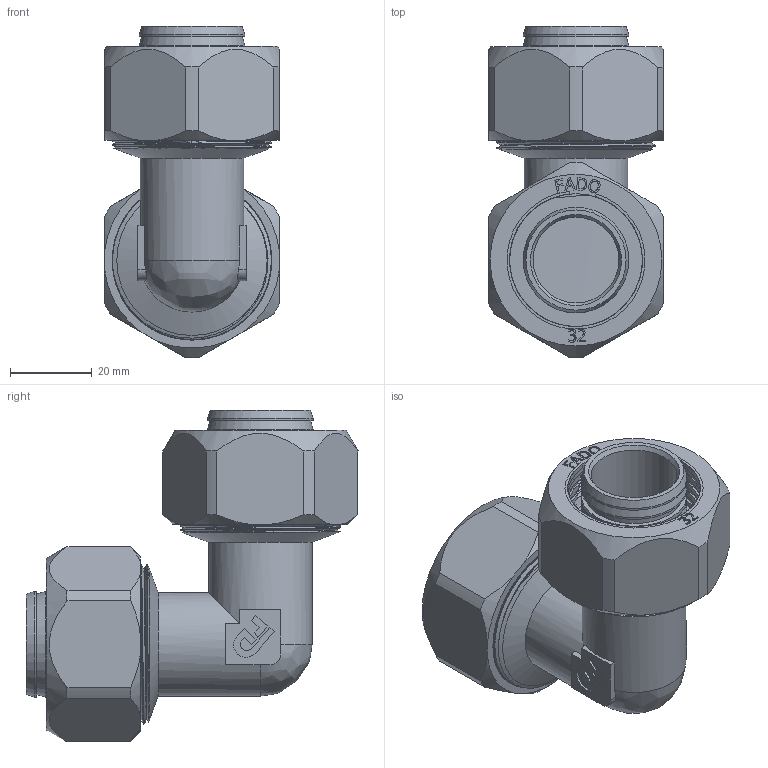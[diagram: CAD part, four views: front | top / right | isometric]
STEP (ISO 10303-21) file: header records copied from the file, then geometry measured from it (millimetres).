
FILE_DESCRIPTION(/* description */ (''),/* implementation_level */ '2;1');
FILE_NAME(/* name */ 'C:\Users\Doom\Desktop\Фадотех\Обжим\RFU04 32 30.03.2020\RFU04 32 30.03.2020.stp',/* time_stamp */ '2022-06-01T15:34:10+03:00',/* author */ ('Doom'),/* organization */ (''),/* preprocessor_version */ 'ST-DEVELOPER v18',/* originating_system */ 'Autodesk Inventor 2020',/* authorisation */ '');
FILE_SCHEMA (('AUTOMOTIVE_DESIGN { 1 0 10303 214 3 1 1 }'));
Length unit declared in the file: millimetre
Products named in the file (5): RFU04 32 30.03.2020; RFU04 32 30.03.2020_1; FADO MC Nut-32 15.02.2020; FADO MC Socket-32 15.02.2020; Olive 20 15.02.2020
Assembly tree (7 placements, depth 2):
  RFU04 32 30.03.2020
    RFU04 32 30.03.2020_1
    FADO MC Nut-32 15.02.2020  x2
    FADO MC Socket-32 15.02.2020  x2
    Olive 20 15.02.2020  x2
Bounding box: 42.8 x 81.2 x 81.19 mm (x, y, z)
Volume: 58855.5 mm3; surface area: 70214.9 mm2
Topology: 11 solids, 11 shells, 1098 faces, 3057 edges, 2061 vertices
Faces by surface type: bspline 542, plane 330, cylinder 174, cone 46, torus 6
Full cylindrical faces by diameter (mm): 21 x2, 21.5 x2, 23.6 x4, 25.3 x3, 25.8 x10, 26 x2, 29.995 x2, 30 x2, 30.5 x2, 32.5 x2, 36.5 x2, 36.776 x2, 37.517 x36, 38.2 x2, 39 x24
Entity records: 44200 total; most frequent: CARTESIAN_POINT 30207, ORIENTED_EDGE 3398, DIRECTION 1977, EDGE_CURVE 1699, VERTEX_POINT 1146, LINE 705, VECTOR 705, B_SPLINE_CURVE_WITH_KNOTS 677
